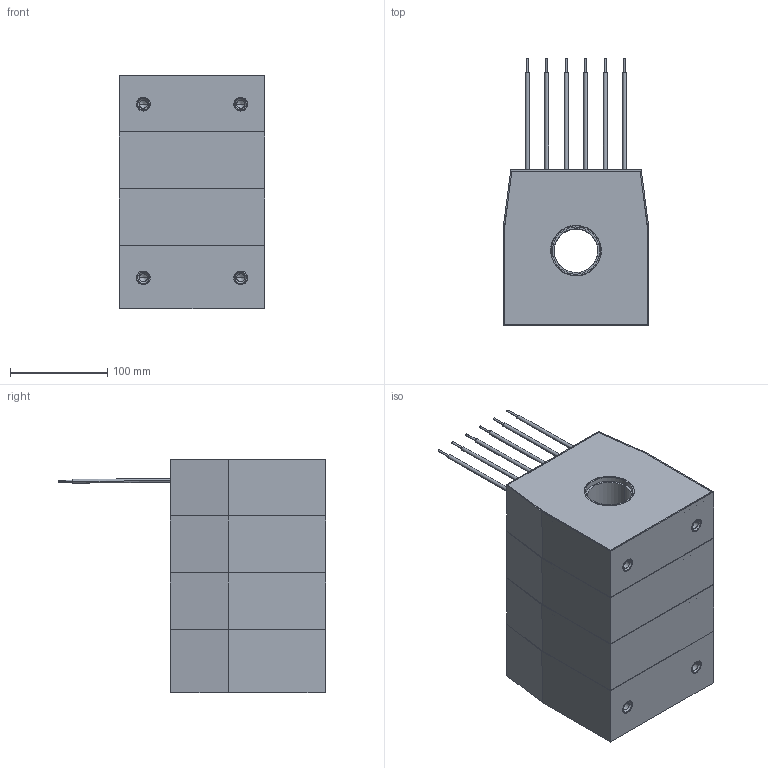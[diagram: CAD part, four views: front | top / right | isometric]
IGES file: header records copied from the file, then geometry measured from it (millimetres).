
Start section: IGES file generated from Kompas f.0 for Windows drawing by the IGES translator from Ascon Ltd., translator version IGESOUT-5.1.
Global section: file name: C:\Ðàáîòà\Èçâåùåíèÿ 5\ÒØÏ-ÍÒÇ-0.66-61...,71...,81... (ñáîðíûé)\Âåðñèÿ îò 21.05.24\3D ìîäåëü\ÒØÏ-ÍÒÇ-0,66-64Ñ\ÒØÏ-ÍÒÇ-0,66-64Ñ (45 ìì, 4-é ãàáàðèò).igs; native system: Kompas( 32 bit ) for Windows; preprocessor: 1.0; author: 123; organization: Microsoft; date: -17750727:093140; units: millimetre
Bounding box: 150 x 274.82 x 240.5 mm (x, y, z)
Volume: 773699.6 mm3; surface area: 512165.7 mm2
Topology: 19 solids, 19 shells, 405 faces, 944 edges, 604 vertices
Faces by surface type: revolution 208, bspline 197
